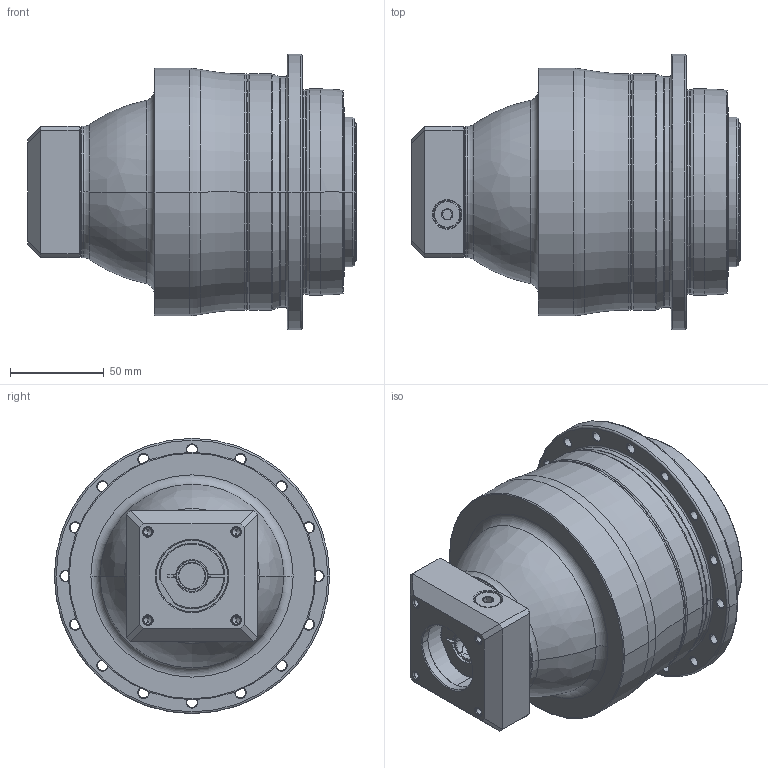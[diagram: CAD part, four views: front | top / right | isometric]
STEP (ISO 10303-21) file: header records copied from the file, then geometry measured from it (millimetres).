
FILE_DESCRIPTION((''),'2;1');
FILE_NAME('AP110_3ST_14-P0409300201_ASM','2018-06-05T',('d01226'),(''),'PRO/ENGINEER BY PARAMETRIC TECHNOLOGY CORPORATION, 2008410','PRO/ENGINEER BY PARAMETRIC TECHNOLOGY CORPORATION, 2008410','');
FILE_SCHEMA(('CONFIG_CONTROL_DESIGN'));
Length unit declared in the file: millimetre
Products named in the file (9): P0278401003; P0359401103; P1366400201; P0503300005; P0912202001; P1211400001; P0409300201; 21711410012; AP110_3ST_14-P0409300201_ASM
Assembly tree (8 placements, depth 2):
  AP110_3ST_14-P0409300201_ASM
    P0278401003
    P0359401103
    P1366400201
    P0503300005
    P0912202001
    P1211400001
    P0409300201
    21711410012
Bounding box: 175.5 x 147 x 147 mm (x, y, z)
Volume: 1564921.6 mm3; surface area: 177327.4 mm2
Topology: 9 solids, 30 shells, 562 faces, 1295 edges, 794 vertices
Faces by surface type: cylinder 226, cone 148, plane 98, torus 74, bspline 16
Entity records: 20678 total; most frequent: CARTESIAN_POINT 7261, DIRECTION 3083, ORIENTED_EDGE 2488, AXIS2_PLACEMENT_3D 1322, EDGE_CURVE 1287, VERTEX_POINT 794, CIRCLE 749, EDGE_LOOP 685
